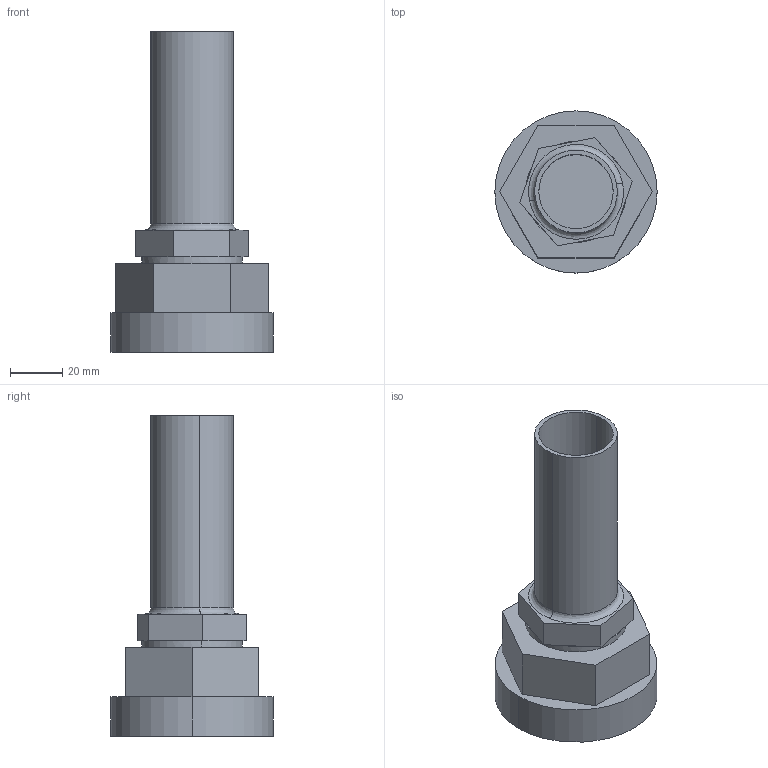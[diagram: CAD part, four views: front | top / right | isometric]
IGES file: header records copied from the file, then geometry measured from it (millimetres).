
Start section: SolidWorks IGES file using analytic representation for surfaces
Global section: file name: S:\Product Visuals\Pumps to be Defeatured\140 fittings\FITTING ASSEMBLIES\DEFEATURED\top-out\20-tube-out-top-out.IGS; native system: SolidWorks 2012; preprocessor: SolidWorks 2012; author: rachel.dressel; date: 121203.152039; units: inch
Bounding box: 62.33 x 62.33 x 123.09 mm (x, y, z)
Volume: 112056.2 mm3; surface area: 29153.9 mm2
Topology: 1 solids, 1 shells, 40 faces, 88 edges, 54 vertices
Faces by surface type: plane 30, revolution 10
